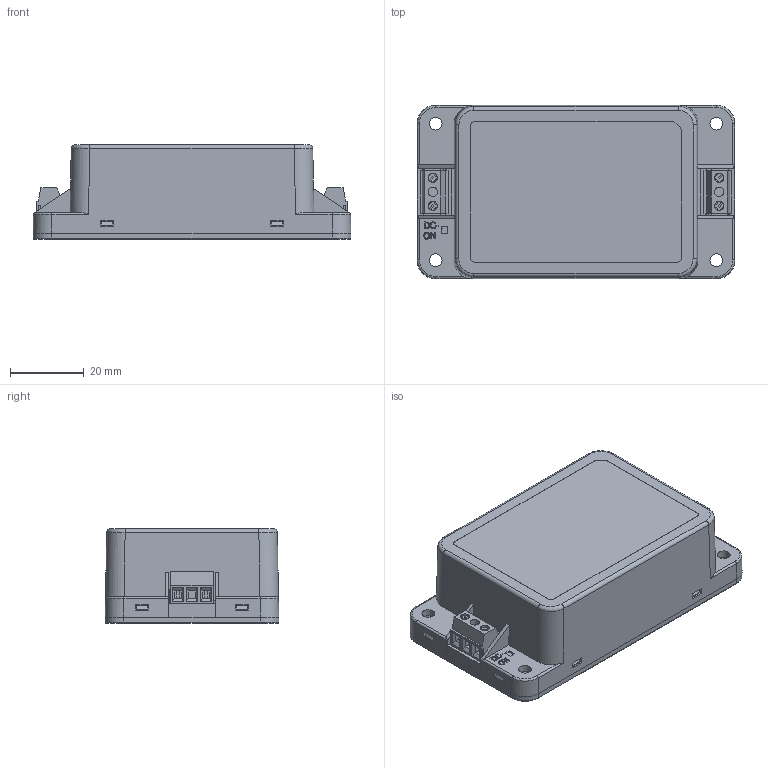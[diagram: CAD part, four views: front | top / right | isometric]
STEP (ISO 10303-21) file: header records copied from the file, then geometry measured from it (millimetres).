
FILE_DESCRIPTION(/* description */ (''),/* implementation_level */ '2;1');
FILE_NAME(/* name */ 'C:\Users\Calliope\Desktop\轉檔暫存用\AMF-30C.stp',/* time_stamp */ '2024-03-01T18:47:11+08:00',/* author */ ('Calliope'),/* organization */ (''),/* preprocessor_version */ 'ST-DEVELOPER v16.1',/* originating_system */ 'Autodesk Inventor 2016',/* authorisation */ '');
FILE_SCHEMA (('AUTOMOTIVE_DESIGN { 1 0 10303 214 3 1 1 }'));
Length unit declared in the file: millimetre
Products named in the file (1): AMF-30 Chassis Mounting(MINMAX)
Bounding box: 86 x 47 x 25.5 mm (x, y, z)
Volume: 69821 mm3; surface area: 25880.9 mm2
Topology: 1 solids, 1 shells, 711 faces, 2008 edges, 1307 vertices
Faces by surface type: plane 527, cylinder 130, bspline 50, torus 4
Full cylindrical faces by diameter (mm): 1.2 x3, 2.5 x6, 3.5 x8
Entity records: 24381 total; most frequent: CARTESIAN_POINT 5336, ORIENTED_EDGE 3970, DIRECTION 3476, EDGE_CURVE 1985, LINE 1602, VECTOR 1602, VERTEX_POINT 1301, AXIS2_PLACEMENT_3D 937
